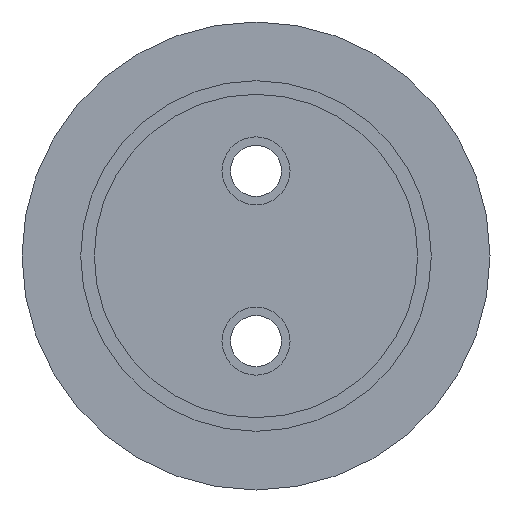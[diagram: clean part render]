
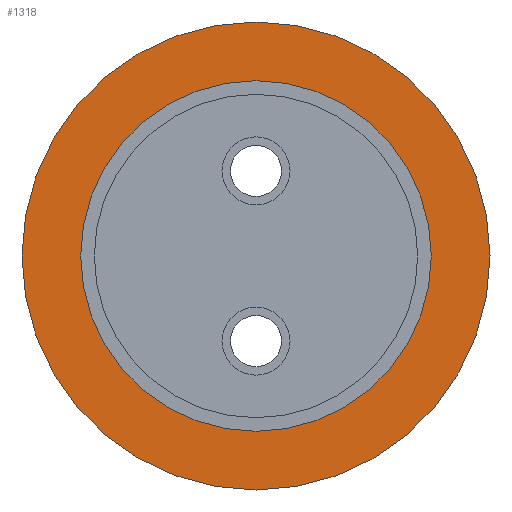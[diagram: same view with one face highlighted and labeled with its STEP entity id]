
A CAD part, left-side view. The second image highlights one B-rep face of the part: STEP entity #1318.
In plain terms, the highlighted planar face has unit normal (-1, 0, 0).
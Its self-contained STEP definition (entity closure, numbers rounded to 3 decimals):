
#130=CARTESIAN_POINT('',(0.0,20.6,0.0));
#131=VERTEX_POINT('',#130);
#140=CARTESIAN_POINT('',(0.0,-20.6,0.));
#141=VERTEX_POINT('',#140);
#142=CARTESIAN_POINT('',(0.0,0.0,0.0));
#143=DIRECTION('',(1.0,0.0,0.0));
#144=DIRECTION('',(0.0,1.0,0.0));
#145=AXIS2_PLACEMENT_3D('',#142,#143,#144);
#146=CIRCLE('',#145,20.6);
#147=EDGE_CURVE('',#141,#131,#146,.T.);
#214=CARTESIAN_POINT('',(0.0,27.5,0.0));
#215=VERTEX_POINT('',#214);
#224=CARTESIAN_POINT('',(0.0,-27.5,0.));
#225=VERTEX_POINT('',#224);
#226=CARTESIAN_POINT('',(0.0,0.0,0.0));
#227=DIRECTION('',(1.0,0.0,0.0));
#228=DIRECTION('',(0.0,1.0,0.0));
#229=AXIS2_PLACEMENT_3D('',#226,#227,#228);
#230=CIRCLE('',#229,27.5);
#231=EDGE_CURVE('',#215,#225,#230,.T.);
#1238=CARTESIAN_POINT('',(0.0,0.0,0.0));
#1239=DIRECTION('',(1.0,0.0,0.0));
#1240=DIRECTION('',(0.0,1.0,0.0));
#1241=AXIS2_PLACEMENT_3D('',#1238,#1239,#1240);
#1242=CIRCLE('',#1241,27.5);
#1243=EDGE_CURVE('',#225,#215,#1242,.T.);
#1295=CARTESIAN_POINT('',(0.0,0.0,0.0));
#1296=DIRECTION('',(1.0,0.0,0.0));
#1297=DIRECTION('',(0.0,1.0,0.0));
#1298=AXIS2_PLACEMENT_3D('',#1295,#1296,#1297);
#1299=CIRCLE('',#1298,20.6);
#1300=EDGE_CURVE('',#131,#141,#1299,.T.);
#1305=CARTESIAN_POINT('',(0.0,24.05,0.0));
#1306=DIRECTION('',(-1.0,0.0,0.0));
#1307=DIRECTION('',(0.0,0.0,1.0));
#1308=AXIS2_PLACEMENT_3D('',#1305,#1306,#1307);
#1309=PLANE('',#1308);
#1310=ORIENTED_EDGE('',*,*,#231,.F.);
#1311=ORIENTED_EDGE('',*,*,#1243,.F.);
#1312=EDGE_LOOP('',(#1310,#1311));
#1313=FACE_OUTER_BOUND('',#1312,.T.);
#1314=ORIENTED_EDGE('',*,*,#1300,.T.);
#1315=ORIENTED_EDGE('',*,*,#147,.T.);
#1316=EDGE_LOOP('',(#1314,#1315));
#1317=FACE_BOUND('',#1316,.T.);
#1318=ADVANCED_FACE('',(#1313,#1317),#1309,.T.);
